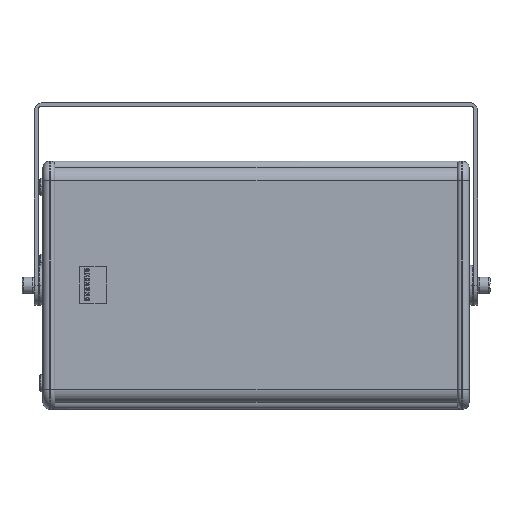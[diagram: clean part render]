
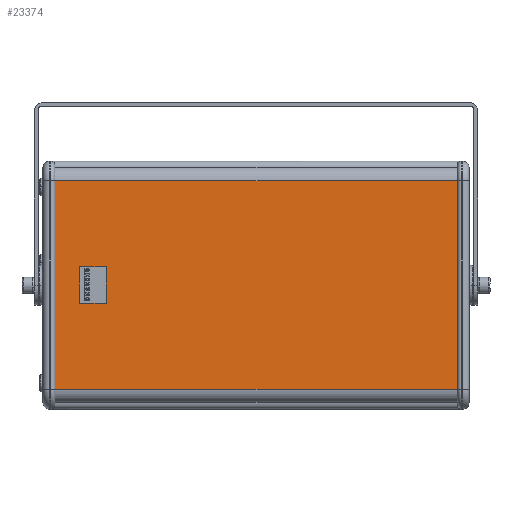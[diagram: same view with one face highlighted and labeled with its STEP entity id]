
A CAD part, top view. The second image highlights one B-rep face of the part: STEP entity #23374.
In plain terms, the highlighted planar face has unit normal (0, 0, 1) as drawn and (0, -1, 0) by its records, which use the part's own axes.
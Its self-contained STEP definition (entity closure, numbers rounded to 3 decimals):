
#3769 = DIRECTION ( 'NONE',  ( 0., 0., -1. ) ) ;
#3770 = DIRECTION ( 'NONE',  ( 0., -1., 0. ) ) ;
#3771 = CARTESIAN_POINT ( 'NONE',  ( 0., 6.438, -230. ) ) ;
#3773 = AXIS2_PLACEMENT_3D ( 'NONE', #3771, #3770, #3769 ) ;
#3774 = PLANE ( 'NONE',  #3773 ) ;
#3779 = FACE_OUTER_BOUND ( 'NONE', #23322, .T. ) ;
#4419 = ORIENTED_EDGE ( 'NONE', *, *, #4420, .T. ) ;
#4420 = EDGE_CURVE ( 'NONE', #4421, #4422, #10147, .T. ) ;
#4421 = VERTEX_POINT ( 'NONE', #10143 ) ;
#4422 = VERTEX_POINT ( 'NONE', #10142 ) ;
#4423 = ORIENTED_EDGE ( 'NONE', *, *, #4424, .F. ) ;
#4424 = EDGE_CURVE ( 'NONE', #4425, #4422, #10141, .T. ) ;
#4425 = VERTEX_POINT ( 'NONE', #10137 ) ;
#4427 = ORIENTED_EDGE ( 'NONE', *, *, #4429, .F. ) ;
#4429 = EDGE_CURVE ( 'NONE', #4430, #4425, #10136, .T. ) ;
#4430 = VERTEX_POINT ( 'NONE', #10132 ) ;
#4431 = ORIENTED_EDGE ( 'NONE', *, *, #4432, .F. ) ;
#4432 = EDGE_CURVE ( 'NONE', #4421, #4430, #10131, .T. ) ;
#10128 = DIRECTION ( 'NONE',  ( 1., 0., 0. ) ) ;
#10129 = VECTOR ( 'NONE', #10128, 1000. ) ;
#10130 = CARTESIAN_POINT ( 'NONE',  ( 0., 6.5, -20. ) ) ;
#10131 = LINE ( 'NONE', #10130, #10129 ) ;
#10132 = CARTESIAN_POINT ( 'NONE',  ( 406., 6.5, -20. ) ) ;
#10133 = DIRECTION ( 'NONE',  ( 0., 0., -1. ) ) ;
#10134 = VECTOR ( 'NONE', #10133, 1000. ) ;
#10135 = CARTESIAN_POINT ( 'NONE',  ( 406., 6.5, -20. ) ) ;
#10136 = LINE ( 'NONE', #10135, #10134 ) ;
#10137 = CARTESIAN_POINT ( 'NONE',  ( 406., 6.438, -230. ) ) ;
#10138 = DIRECTION ( 'NONE',  ( -1., 0., 0. ) ) ;
#10139 = VECTOR ( 'NONE', #10138, 1000. ) ;
#10140 = CARTESIAN_POINT ( 'NONE',  ( 0., 6.438, -230. ) ) ;
#10141 = LINE ( 'NONE', #10140, #10139 ) ;
#10142 = CARTESIAN_POINT ( 'NONE',  ( 0., 6.438, -230. ) ) ;
#10143 = CARTESIAN_POINT ( 'NONE',  ( 0., 6.5, -20. ) ) ;
#10144 = DIRECTION ( 'NONE',  ( 0., 0., -1. ) ) ;
#10145 = VECTOR ( 'NONE', #10144, 1000. ) ;
#10146 = CARTESIAN_POINT ( 'NONE',  ( 0., 6.5, -20. ) ) ;
#10147 = LINE ( 'NONE', #10146, #10145 ) ;
#23322 = EDGE_LOOP ( 'NONE', ( #4419, #4423, #4427, #4431 ) ) ;
#23374 = ADVANCED_FACE ( 'NONE', ( #3779 ), #3774, .T. ) ;
